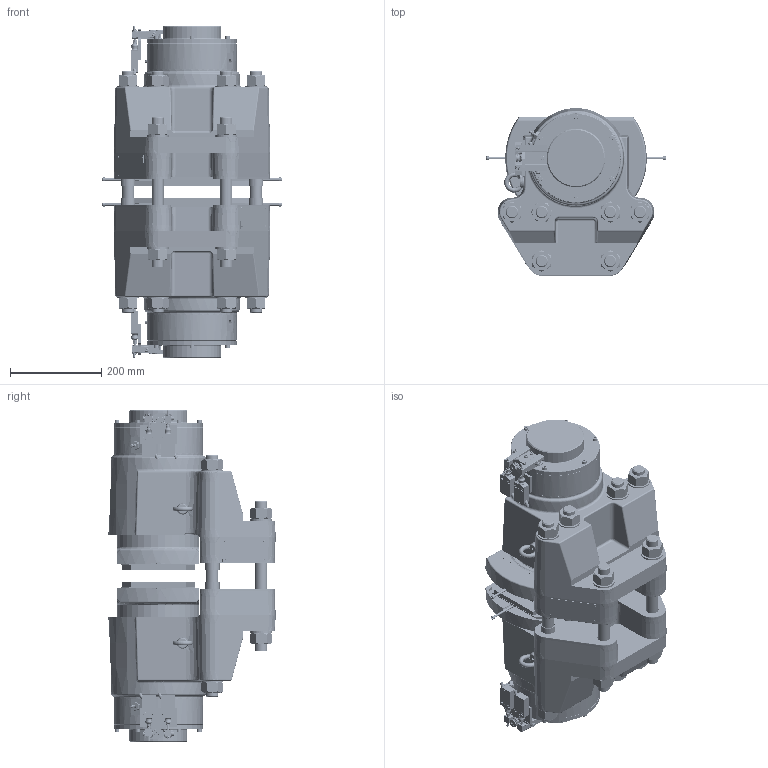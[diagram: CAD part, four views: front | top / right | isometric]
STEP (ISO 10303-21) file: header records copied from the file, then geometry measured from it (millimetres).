
FILE_DESCRIPTION((''),'2;1');
FILE_NAME('HW_145_FHM-270','2020-10-09T',('BOLS'),(''),'CREO PARAMETRIC BY PTC INC, 2018360','CREO PARAMETRIC BY PTC INC, 2018360','');
FILE_SCHEMA(('CONFIG_CONTROL_DESIGN'));
Products named in the file (1): HW_145_FHM-270
Bounding box: 392 x 366.19 x 726.6 mm (x, y, z)
Volume: 23189971.3 mm3; surface area: 2287143.1 mm2
Topology: 5 solids, 93 shells, 3723 faces, 9007 edges, 5616 vertices
Faces by surface type: plane 1422, cylinder 1126, cone 739, torus 265, bspline 122, sphere 41, revolution 8
Entity records: 161747 total; most frequent: CARTESIAN_POINT 47994, DIRECTION 18749, ORIENTED_EDGE 17714, PRESENTATION_STYLE_ASSIGNMENT 8862, STYLED_ITEM 8862, CURVE_STYLE 8857, EDGE_CURVE 8857, AXIS2_PLACEMENT_3D 7457
